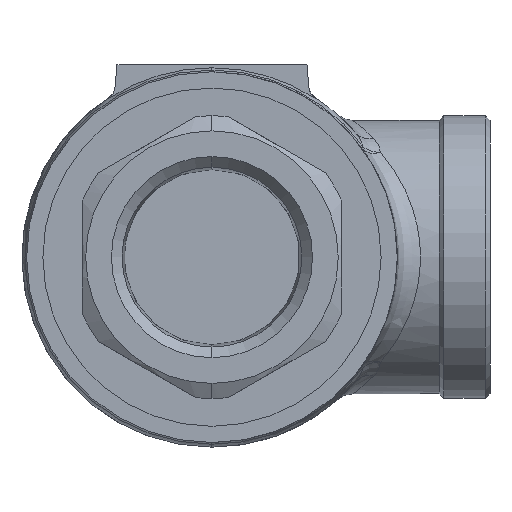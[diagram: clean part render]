
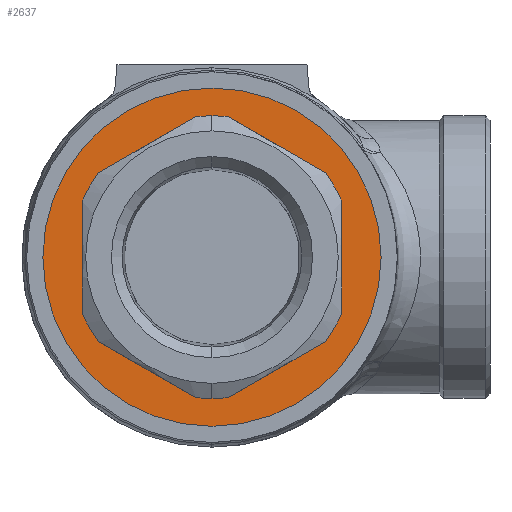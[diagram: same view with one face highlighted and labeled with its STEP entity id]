
A CAD part, front view. The second image highlights one B-rep face of the part: STEP entity #2637.
In plain terms, the highlighted planar face has unit normal (0, -1, 0).
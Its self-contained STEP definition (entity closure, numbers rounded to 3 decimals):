
#26 = CARTESIAN_POINT ( 'NONE',  ( -28., -38.5, 12.093 ) ) ;
#118 = CIRCLE ( 'NONE', #4624, 36.5 ) ;
#131 = CARTESIAN_POINT ( 'NONE',  ( 0., -38.5, -30.5 ) ) ;
#162 = AXIS2_PLACEMENT_3D ( 'NONE', #4058, #6053, #1455 ) ;
#187 = DIRECTION ( 'NONE',  ( 0., 0., -1. ) ) ;
#219 = CIRCLE ( 'NONE', #917, 30.5 ) ;
#246 = ORIENTED_EDGE ( 'NONE', *, *, #7479, .F. ) ;
#287 = DIRECTION ( 'NONE',  ( 0., 0., -1. ) ) ;
#378 = ORIENTED_EDGE ( 'NONE', *, *, #7195, .F. ) ;
#420 = VERTEX_POINT ( 'NONE', #6810 ) ;
#436 = ORIENTED_EDGE ( 'NONE', *, *, #4185, .F. ) ;
#464 = LINE ( 'NONE', #5015, #1160 ) ;
#484 = DIRECTION ( 'NONE',  ( 0., 0., -1. ) ) ;
#514 = DIRECTION ( 'NONE',  ( -0.866, 0., -0.5 ) ) ;
#619 = EDGE_LOOP ( 'NONE', ( #436, #1825, #378, #7483, #2932, #6856, #8099, #4640, #1840, #4943, #8177, #8567, #1595 ) ) ;
#625 = VERTEX_POINT ( 'NONE', #8327 ) ;
#717 = EDGE_LOOP ( 'NONE', ( #246, #6711 ) ) ;
#851 = CARTESIAN_POINT ( 'NONE',  ( 28., -38.5, 12.093 ) ) ;
#917 = AXIS2_PLACEMENT_3D ( 'NONE', #4324, #5073, #1685 ) ;
#1027 = CARTESIAN_POINT ( 'NONE',  ( 0., -38.5, 0. ) ) ;
#1037 = CARTESIAN_POINT ( 'NONE',  ( 24.473, -38.5, -18.202 ) ) ;
#1126 = LINE ( 'NONE', #7807, #2291 ) ;
#1160 = VECTOR ( 'NONE', #4357, 1000. ) ;
#1170 = CARTESIAN_POINT ( 'NONE',  ( 28., -38.5, 0. ) ) ;
#1208 = DIRECTION ( 'NONE',  ( 0., -1., 0. ) ) ;
#1336 = DIRECTION ( 'NONE',  ( 0., -1., 0. ) ) ;
#1341 = CARTESIAN_POINT ( 'NONE',  ( 24.473, -38.5, 18.202 ) ) ;
#1415 = AXIS2_PLACEMENT_3D ( 'NONE', #5320, #1208, #4656 ) ;
#1455 = DIRECTION ( 'NONE',  ( 0., 0., -1. ) ) ;
#1524 = AXIS2_PLACEMENT_3D ( 'NONE', #6237, #1336, #187 ) ;
#1581 = VERTEX_POINT ( 'NONE', #7543 ) ;
#1593 = CARTESIAN_POINT ( 'NONE',  ( 0., -38.5, 0. ) ) ;
#1595 = ORIENTED_EDGE ( 'NONE', *, *, #2542, .F. ) ;
#1625 = CARTESIAN_POINT ( 'NONE',  ( 0., -38.5, 0. ) ) ;
#1640 = CIRCLE ( 'NONE', #4460, 36.5 ) ;
#1685 = DIRECTION ( 'NONE',  ( 0., 0., -1. ) ) ;
#1789 = DIRECTION ( 'NONE',  ( 0., 1., 0. ) ) ;
#1825 = ORIENTED_EDGE ( 'NONE', *, *, #6666, .F. ) ;
#1840 = ORIENTED_EDGE ( 'NONE', *, *, #2527, .F. ) ;
#1853 = AXIS2_PLACEMENT_3D ( 'NONE', #1625, #8346, #4310 ) ;
#1926 = EDGE_CURVE ( 'NONE', #2410, #3732, #4821, .T. ) ;
#1990 = CIRCLE ( 'NONE', #1853, 30.5 ) ;
#2049 = CARTESIAN_POINT ( 'NONE',  ( 3.527, -38.5, -30.295 ) ) ;
#2291 = VECTOR ( 'NONE', #6338, 1000. ) ;
#2350 = CARTESIAN_POINT ( 'NONE',  ( 28., -38.5, -12.093 ) ) ;
#2369 = CARTESIAN_POINT ( 'NONE',  ( -13.375, -38.5, 40.054 ) ) ;
#2404 = CARTESIAN_POINT ( 'NONE',  ( 0., -38.5, 0. ) ) ;
#2410 = VERTEX_POINT ( 'NONE', #6261 ) ;
#2495 = CARTESIAN_POINT ( 'NONE',  ( 0., -38.5, 0. ) ) ;
#2527 = EDGE_CURVE ( 'NONE', #7452, #7055, #5821, .T. ) ;
#2542 = EDGE_CURVE ( 'NONE', #3380, #8186, #1126, .T. ) ;
#2546 = VERTEX_POINT ( 'NONE', #1037 ) ;
#2587 = LINE ( 'NONE', #1170, #3592 ) ;
#2637 = ADVANCED_FACE ( 'NONE', ( #6683, #7223 ), #6729, .T. ) ;
#2679 = VERTEX_POINT ( 'NONE', #1341 ) ;
#2860 = VECTOR ( 'NONE', #3727, 1000. ) ;
#2861 = CARTESIAN_POINT ( 'NONE',  ( -24.473, -38.5, 18.202 ) ) ;
#2932 = ORIENTED_EDGE ( 'NONE', *, *, #6169, .F. ) ;
#3127 = CIRCLE ( 'NONE', #162, 30.5 ) ;
#3136 = AXIS2_PLACEMENT_3D ( 'NONE', #2495, #7181, #287 ) ;
#3137 = CARTESIAN_POINT ( 'NONE',  ( 0., -38.5, 0. ) ) ;
#3151 = CARTESIAN_POINT ( 'NONE',  ( -41.375, -38.5, -8.444 ) ) ;
#3204 = EDGE_CURVE ( 'NONE', #2679, #3616, #7767, .T. ) ;
#3239 = EDGE_CURVE ( 'NONE', #7055, #2546, #464, .T. ) ;
#3380 = VERTEX_POINT ( 'NONE', #26 ) ;
#3432 = CIRCLE ( 'NONE', #5562, 30.5 ) ;
#3481 = CARTESIAN_POINT ( 'NONE',  ( -28., -38.5, -12.093 ) ) ;
#3517 = VERTEX_POINT ( 'NONE', #851 ) ;
#3592 = VECTOR ( 'NONE', #3860, 1000. ) ;
#3616 = VERTEX_POINT ( 'NONE', #5803 ) ;
#3714 = DIRECTION ( 'NONE',  ( 0., 0., -1. ) ) ;
#3727 = DIRECTION ( 'NONE',  ( -0.866, 0., 0.5 ) ) ;
#3732 = VERTEX_POINT ( 'NONE', #8553 ) ;
#3860 = DIRECTION ( 'NONE',  ( 0., 0., 1. ) ) ;
#4058 = CARTESIAN_POINT ( 'NONE',  ( 0., -38.5, 0. ) ) ;
#4185 = EDGE_CURVE ( 'NONE', #4510, #3380, #1990, .T. ) ;
#4251 = AXIS2_PLACEMENT_3D ( 'NONE', #1027, #5087, #3714 ) ;
#4310 = DIRECTION ( 'NONE',  ( 0., 0., -1. ) ) ;
#4324 = CARTESIAN_POINT ( 'NONE',  ( 0., -38.5, 0. ) ) ;
#4357 = DIRECTION ( 'NONE',  ( 0.866, 0., 0.5 ) ) ;
#4460 = AXIS2_PLACEMENT_3D ( 'NONE', #1593, #4813, #4772 ) ;
#4510 = VERTEX_POINT ( 'NONE', #2861 ) ;
#4624 = AXIS2_PLACEMENT_3D ( 'NONE', #2404, #1789, #7975 ) ;
#4640 = ORIENTED_EDGE ( 'NONE', *, *, #3239, .F. ) ;
#4656 = DIRECTION ( 'NONE',  ( 0., 0., -1. ) ) ;
#4772 = DIRECTION ( 'NONE',  ( 0., 0., 1. ) ) ;
#4813 = DIRECTION ( 'NONE',  ( 0., 1., 0. ) ) ;
#4821 = LINE ( 'NONE', #3151, #7170 ) ;
#4943 = ORIENTED_EDGE ( 'NONE', *, *, #7621, .F. ) ;
#4990 = VECTOR ( 'NONE', #514, 1000. ) ;
#5015 = CARTESIAN_POINT ( 'NONE',  ( -13.375, -38.5, -40.054 ) ) ;
#5073 = DIRECTION ( 'NONE',  ( 0., -1., 0. ) ) ;
#5087 = DIRECTION ( 'NONE',  ( 0., -1., 0. ) ) ;
#5223 = EDGE_CURVE ( 'NONE', #8186, #2410, #7075, .T. ) ;
#5320 = CARTESIAN_POINT ( 'NONE',  ( -36.5, -38.5, 0. ) ) ;
#5416 = EDGE_CURVE ( 'NONE', #2546, #7144, #3127, .T. ) ;
#5562 = AXIS2_PLACEMENT_3D ( 'NONE', #3137, #6407, #484 ) ;
#5803 = CARTESIAN_POINT ( 'NONE',  ( 3.527, -38.5, 30.295 ) ) ;
#5821 = CIRCLE ( 'NONE', #3136, 30.5 ) ;
#5998 = EDGE_CURVE ( 'NONE', #625, #420, #118, .T. ) ;
#6053 = DIRECTION ( 'NONE',  ( 0., -1., 0. ) ) ;
#6169 = EDGE_CURVE ( 'NONE', #3517, #2679, #6746, .T. ) ;
#6237 = CARTESIAN_POINT ( 'NONE',  ( 0., -38.5, 0. ) ) ;
#6261 = CARTESIAN_POINT ( 'NONE',  ( -24.473, -38.5, -18.202 ) ) ;
#6338 = DIRECTION ( 'NONE',  ( 0., 0., -1. ) ) ;
#6407 = DIRECTION ( 'NONE',  ( 0., -1., 0. ) ) ;
#6666 = EDGE_CURVE ( 'NONE', #1581, #4510, #8124, .T. ) ;
#6683 = FACE_BOUND ( 'NONE', #619, .T. ) ;
#6711 = ORIENTED_EDGE ( 'NONE', *, *, #5998, .F. ) ;
#6729 = PLANE ( 'NONE',  #1415 ) ;
#6746 = CIRCLE ( 'NONE', #1524, 30.5 ) ;
#6810 = CARTESIAN_POINT ( 'NONE',  ( 0., -38.5, 36.5 ) ) ;
#6856 = ORIENTED_EDGE ( 'NONE', *, *, #8084, .F. ) ;
#7055 = VERTEX_POINT ( 'NONE', #2049 ) ;
#7075 = CIRCLE ( 'NONE', #4251, 30.5 ) ;
#7144 = VERTEX_POINT ( 'NONE', #2350 ) ;
#7170 = VECTOR ( 'NONE', #8149, 1000. ) ;
#7181 = DIRECTION ( 'NONE',  ( 0., -1., 0. ) ) ;
#7195 = EDGE_CURVE ( 'NONE', #3616, #1581, #3432, .T. ) ;
#7223 = FACE_OUTER_BOUND ( 'NONE', #717, .T. ) ;
#7316 = CARTESIAN_POINT ( 'NONE',  ( -41.375, -38.5, 8.444 ) ) ;
#7452 = VERTEX_POINT ( 'NONE', #131 ) ;
#7479 = EDGE_CURVE ( 'NONE', #420, #625, #1640, .T. ) ;
#7483 = ORIENTED_EDGE ( 'NONE', *, *, #3204, .F. ) ;
#7543 = CARTESIAN_POINT ( 'NONE',  ( -3.527, -38.5, 30.295 ) ) ;
#7621 = EDGE_CURVE ( 'NONE', #3732, #7452, #219, .T. ) ;
#7767 = LINE ( 'NONE', #2369, #2860 ) ;
#7807 = CARTESIAN_POINT ( 'NONE',  ( -28., -38.5, 0. ) ) ;
#7975 = DIRECTION ( 'NONE',  ( 0., 0., 1. ) ) ;
#8084 = EDGE_CURVE ( 'NONE', #7144, #3517, #2587, .T. ) ;
#8099 = ORIENTED_EDGE ( 'NONE', *, *, #5416, .F. ) ;
#8124 = LINE ( 'NONE', #7316, #4990 ) ;
#8149 = DIRECTION ( 'NONE',  ( 0.866, 0., -0.5 ) ) ;
#8177 = ORIENTED_EDGE ( 'NONE', *, *, #1926, .F. ) ;
#8186 = VERTEX_POINT ( 'NONE', #3481 ) ;
#8327 = CARTESIAN_POINT ( 'NONE',  ( 0., -38.5, -36.5 ) ) ;
#8346 = DIRECTION ( 'NONE',  ( 0., -1., 0. ) ) ;
#8553 = CARTESIAN_POINT ( 'NONE',  ( -3.527, -38.5, -30.295 ) ) ;
#8567 = ORIENTED_EDGE ( 'NONE', *, *, #5223, .F. ) ;
